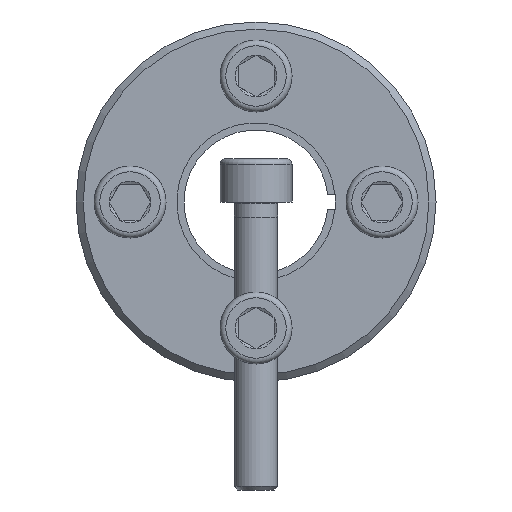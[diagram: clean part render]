
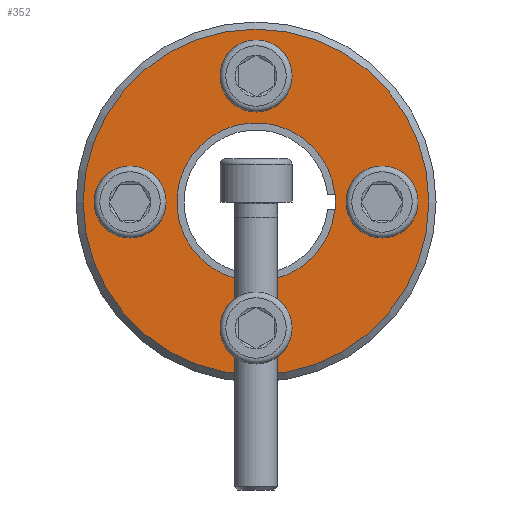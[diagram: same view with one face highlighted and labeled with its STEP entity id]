
A CAD part, front view. The second image highlights one B-rep face of the part: STEP entity #352.
In plain terms, the highlighted planar face has unit normal (0, -1, 0).
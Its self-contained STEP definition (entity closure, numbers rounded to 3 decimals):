
#352 = ADVANCED_FACE( '', ( #551, #552, #553, #554, #555, #556 ), #557, .F. );
#551 = FACE_OUTER_BOUND( '', #701, .T. );
#552 = FACE_BOUND( '', #702, .T. );
#553 = FACE_BOUND( '', #703, .T. );
#554 = FACE_BOUND( '', #704, .T. );
#555 = FACE_BOUND( '', #705, .T. );
#556 = FACE_BOUND( '', #706, .T. );
#557 = PLANE( '', #707 );
#701 = EDGE_LOOP( '', ( #874 ) );
#702 = EDGE_LOOP( '', ( #875 ) );
#703 = EDGE_LOOP( '', ( #876 ) );
#704 = EDGE_LOOP( '', ( #877 ) );
#705 = EDGE_LOOP( '', ( #878 ) );
#706 = EDGE_LOOP( '', ( #879, #880, #881, #882 ) );
#707 = AXIS2_PLACEMENT_3D( '', #883, #884, #885 );
#874 = ORIENTED_EDGE( '', *, *, #1219, .T. );
#875 = ORIENTED_EDGE( '', *, *, #1220, .T. );
#876 = ORIENTED_EDGE( '', *, *, #1221, .T. );
#877 = ORIENTED_EDGE( '', *, *, #1222, .T. );
#878 = ORIENTED_EDGE( '', *, *, #1223, .T. );
#879 = ORIENTED_EDGE( '', *, *, #1224, .F. );
#880 = ORIENTED_EDGE( '', *, *, #1225, .T. );
#881 = ORIENTED_EDGE( '', *, *, #1226, .T. );
#882 = ORIENTED_EDGE( '', *, *, #1227, .F. );
#883 = CARTESIAN_POINT( '', ( 0., 0., 25. ) );
#884 = DIRECTION( '', ( 0., 1., 0. ) );
#885 = DIRECTION( '', ( 0., 0., 1. ) );
#1219 = EDGE_CURVE( '', #1342, #1342, #1343, .F. );
#1220 = EDGE_CURVE( '', #1344, #1344, #1345, .T. );
#1221 = EDGE_CURVE( '', #1346, #1346, #1347, .T. );
#1222 = EDGE_CURVE( '', #1348, #1348, #1349, .T. );
#1223 = EDGE_CURVE( '', #1350, #1350, #1351, .T. );
#1224 = EDGE_CURVE( '', #1352, #1353, #1354, .T. );
#1225 = EDGE_CURVE( '', #1352, #1355, #1356, .T. );
#1226 = EDGE_CURVE( '', #1355, #1357, #1358, .T. );
#1227 = EDGE_CURVE( '', #1353, #1357, #1359, .T. );
#1342 = VERTEX_POINT( '', #1450 );
#1343 = CIRCLE( '', #1451, 24. );
#1344 = VERTEX_POINT( '', #1452 );
#1345 = CIRCLE( '', #1453, 3. );
#1346 = VERTEX_POINT( '', #1454 );
#1347 = CIRCLE( '', #1455, 3. );
#1348 = VERTEX_POINT( '', #1456 );
#1349 = CIRCLE( '', #1457, 3. );
#1350 = VERTEX_POINT( '', #1458 );
#1351 = CIRCLE( '', #1459, 3. );
#1352 = VERTEX_POINT( '', #1460 );
#1353 = VERTEX_POINT( '', #1461 );
#1354 = CIRCLE( '', #1462, 11. );
#1355 = VERTEX_POINT( '', #1463 );
#1356 = LINE( '', #1464, #1465 );
#1357 = VERTEX_POINT( '', #1466 );
#1358 = LINE( '', #1467, #1468 );
#1359 = LINE( '', #1469, #1470 );
#1450 = CARTESIAN_POINT( '', ( 0., 0., 24. ) );
#1451 = AXIS2_PLACEMENT_3D( '', #1606, #1607, #1608 );
#1452 = CARTESIAN_POINT( '', ( -17.5, 0., 3. ) );
#1453 = AXIS2_PLACEMENT_3D( '', #1609, #1610, #1611 );
#1454 = CARTESIAN_POINT( '', ( -3., 0., -17.5 ) );
#1455 = AXIS2_PLACEMENT_3D( '', #1612, #1613, #1614 );
#1456 = CARTESIAN_POINT( '', ( 17.5, 0., -3. ) );
#1457 = AXIS2_PLACEMENT_3D( '', #1615, #1616, #1617 );
#1458 = CARTESIAN_POINT( '', ( 3., 0., 17.5 ) );
#1459 = AXIS2_PLACEMENT_3D( '', #1618, #1619, #1620 );
#1460 = CARTESIAN_POINT( '', ( 10.954, 0., 1. ) );
#1461 = CARTESIAN_POINT( '', ( 10.954, 0., -1. ) );
#1462 = AXIS2_PLACEMENT_3D( '', #1621, #1622, #1623 );
#1463 = CARTESIAN_POINT( '', ( 11., 0., 1. ) );
#1464 = CARTESIAN_POINT( '', ( 0., 0., 1. ) );
#1465 = VECTOR( '', #1624, 1000. );
#1466 = CARTESIAN_POINT( '', ( 11., 0., -1. ) );
#1467 = CARTESIAN_POINT( '', ( 11., 0., 1. ) );
#1468 = VECTOR( '', #1625, 1000. );
#1469 = CARTESIAN_POINT( '', ( 0., 0., -1. ) );
#1470 = VECTOR( '', #1626, 1000. );
#1606 = CARTESIAN_POINT( '', ( 0., 0., 0. ) );
#1607 = DIRECTION( '', ( 0., 1., 0. ) );
#1608 = DIRECTION( '', ( 0., 0., 1. ) );
#1609 = CARTESIAN_POINT( '', ( -17.5, 0., 0. ) );
#1610 = DIRECTION( '', ( 0., 1., 0. ) );
#1611 = DIRECTION( '', ( 0., 0., 1. ) );
#1612 = CARTESIAN_POINT( '', ( 0., 0., -17.5 ) );
#1613 = DIRECTION( '', ( 0., 1., 0. ) );
#1614 = DIRECTION( '', ( -1., 0., 0. ) );
#1615 = CARTESIAN_POINT( '', ( 17.5, 0., 0. ) );
#1616 = DIRECTION( '', ( 0., 1., 0. ) );
#1617 = DIRECTION( '', ( 0., 0., -1. ) );
#1618 = CARTESIAN_POINT( '', ( 0., 0., 17.5 ) );
#1619 = DIRECTION( '', ( 0., 1., 0. ) );
#1620 = DIRECTION( '', ( 1., 0., 0. ) );
#1621 = CARTESIAN_POINT( '', ( 0., 0., 0. ) );
#1622 = DIRECTION( '', ( 0., -1., 0. ) );
#1623 = DIRECTION( '', ( 0., 0., -1. ) );
#1624 = DIRECTION( '', ( 1., 0., 0. ) );
#1625 = DIRECTION( '', ( 0., 0., -1. ) );
#1626 = DIRECTION( '', ( 1., 0., 0. ) );
